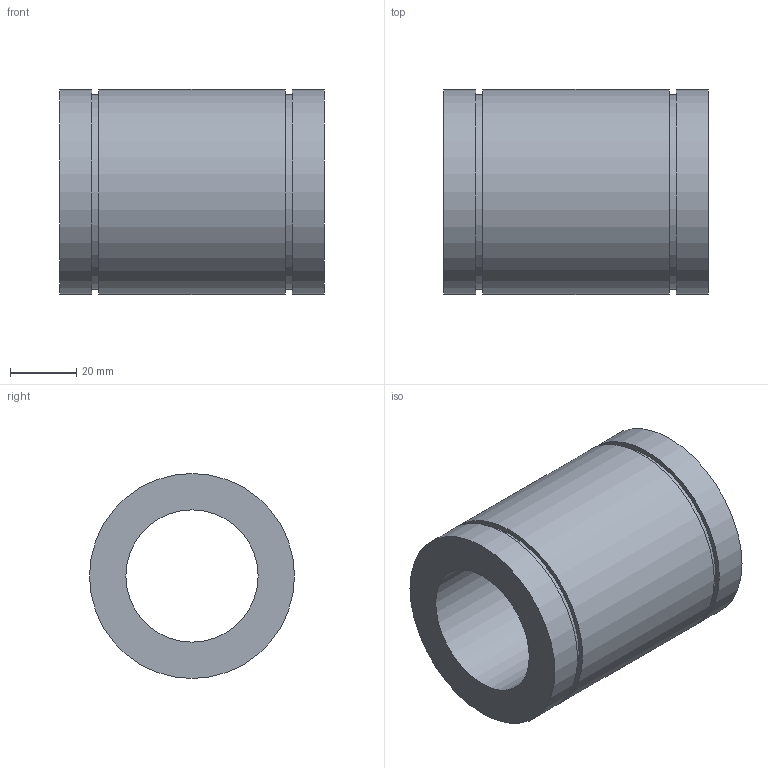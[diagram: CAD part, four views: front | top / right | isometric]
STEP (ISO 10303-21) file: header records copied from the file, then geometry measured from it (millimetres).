
FILE_DESCRIPTION( ( 'STEP AP203' ), '1' );
FILE_NAME( 'p:/temp/worker_102/temp/exporttempdir_4024_442_Hneb7/format_0/LME40UU.stp', '2020-04-29T03:07:34', ( 'License CC BY-ND 4.0' ), ( 'CADENAS' ), ' ', 'PARTsolutions', ' ' );
FILE_SCHEMA( ( 'CONFIG_CONTROL_DESIGN' ) );
Length unit declared in the file: millimetre
Products named in the file (1): _LME40UU
Bounding box: 80 x 62 x 62 mm (x, y, z)
Volume: 139768.8 mm3; surface area: 30260.1 mm2
Topology: 1 solids, 1 shells, 12 faces, 18 edges, 12 vertices
Faces by surface type: plane 6, cylinder 6
Full cylindrical faces by diameter (mm): 40 x1, 59 x2, 62 x3
Entity records: 292 total; most frequent: DIRECTION 50, CARTESIAN_POINT 37, AXIS2_PLACEMENT_3D 25, EDGE_LOOP 24, ORIENTED_EDGE 24, FACE_OUTER_BOUND 18, ADVANCED_FACE 12, EDGE_CURVE 12
